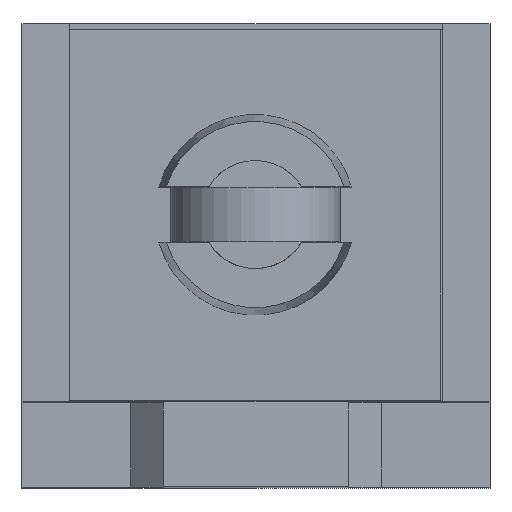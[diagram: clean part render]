
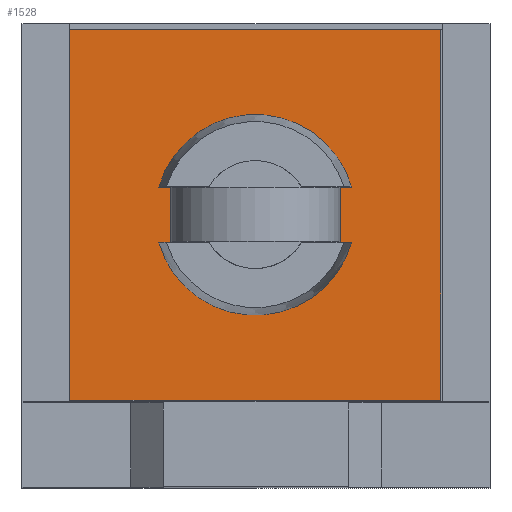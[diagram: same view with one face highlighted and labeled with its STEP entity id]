
A CAD part, top view. The second image highlights one B-rep face of the part: STEP entity #1528.
In plain terms, the highlighted planar face has unit normal (0, 0, 1).
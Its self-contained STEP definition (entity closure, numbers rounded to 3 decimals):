
#1305=CARTESIAN_POINT('',(12.,14.55,67.));
#1306=VERTEX_POINT('',#1305);
#1315=CARTESIAN_POINT('',(12.,-9.45,67.0));
#1316=VERTEX_POINT('',#1315);
#1317=CARTESIAN_POINT('',(12.,-9.45,67.));
#1318=DIRECTION('',(0.0,1.0,0.0));
#1319=VECTOR('',#1318,24.);
#1320=LINE('',#1317,#1319);
#1321=EDGE_CURVE('',#1316,#1306,#1320,.T.);
#1347=CARTESIAN_POINT('',(-12.,14.55,67.));
#1348=VERTEX_POINT('',#1347);
#1363=CARTESIAN_POINT('',(-12.,-9.45,67.0));
#1364=VERTEX_POINT('',#1363);
#1371=CARTESIAN_POINT('',(-12.,14.55,67.));
#1372=DIRECTION('',(0.0,-1.0,0.0));
#1373=VECTOR('',#1372,24.);
#1374=LINE('',#1371,#1373);
#1375=EDGE_CURVE('',#1348,#1364,#1374,.T.);
#1392=CARTESIAN_POINT('',(-12.,-9.45,67.));
#1393=DIRECTION('',(1.0,0.0,0.0));
#1394=VECTOR('',#1393,24.);
#1395=LINE('',#1392,#1394);
#1396=EDGE_CURVE('',#1364,#1316,#1395,.T.);
#1438=CARTESIAN_POINT('',(12.,14.55,67.));
#1439=DIRECTION('',(-1.0,0.0,0.0));
#1440=VECTOR('',#1439,24.);
#1441=LINE('',#1438,#1440);
#1442=EDGE_CURVE('',#1306,#1348,#1441,.T.);
#1447=CARTESIAN_POINT('',(0.,2.55,67.));
#1448=DIRECTION('',(0.0,0.0,1.0));
#1449=DIRECTION('',(1.0,0.0,0.0));
#1450=AXIS2_PLACEMENT_3D('',#1447,#1448,#1449);
#1451=PLANE('',#1450);
#1452=ORIENTED_EDGE('',*,*,#1321,.T.);
#1453=ORIENTED_EDGE('',*,*,#1442,.T.);
#1454=ORIENTED_EDGE('',*,*,#1375,.T.);
#1455=ORIENTED_EDGE('',*,*,#1396,.T.);
#1456=EDGE_LOOP('',(#1452,#1453,#1454,#1455));
#1457=FACE_OUTER_BOUND('',#1456,.T.);
#1458=CARTESIAN_POINT('',(3.002,4.35,67.));
#1459=VERTEX_POINT('',#1458);
#1460=CARTESIAN_POINT('',(3.002,0.75,67.));
#1461=VERTEX_POINT('',#1460);
#1462=CARTESIAN_POINT('',(0.,2.55,67.));
#1463=DIRECTION('',(0.0,0.0,-1.0));
#1464=DIRECTION('',(-1.0,0.0,0.0));
#1465=AXIS2_PLACEMENT_3D('',#1462,#1463,#1464);
#1466=CIRCLE('',#1465,3.5);
#1467=EDGE_CURVE('',#1459,#1461,#1466,.T.);
#1468=ORIENTED_EDGE('',*,*,#1467,.T.);
#1469=CARTESIAN_POINT('',(6.246,0.75,67.));
#1470=VERTEX_POINT('',#1469);
#1471=CARTESIAN_POINT('',(6.246,0.75,67.));
#1472=DIRECTION('',(-1.0,0.0,0.0));
#1473=VECTOR('',#1472,3.244);
#1474=LINE('',#1471,#1473);
#1475=EDGE_CURVE('',#1470,#1461,#1474,.T.);
#1476=ORIENTED_EDGE('',*,*,#1475,.F.);
#1477=CARTESIAN_POINT('',(-6.246,0.75,67.));
#1478=VERTEX_POINT('',#1477);
#1479=CARTESIAN_POINT('',(0.,2.55,67.));
#1480=DIRECTION('',(0.0,0.0,-1.0));
#1481=DIRECTION('',(-1.0,0.0,0.0));
#1482=AXIS2_PLACEMENT_3D('',#1479,#1480,#1481);
#1483=CIRCLE('',#1482,6.5);
#1484=EDGE_CURVE('',#1470,#1478,#1483,.T.);
#1485=ORIENTED_EDGE('',*,*,#1484,.T.);
#1486=CARTESIAN_POINT('',(-3.002,0.75,67.));
#1487=VERTEX_POINT('',#1486);
#1488=CARTESIAN_POINT('',(-3.002,0.75,67.));
#1489=DIRECTION('',(-1.0,0.0,0.0));
#1490=VECTOR('',#1489,3.244);
#1491=LINE('',#1488,#1490);
#1492=EDGE_CURVE('',#1487,#1478,#1491,.T.);
#1493=ORIENTED_EDGE('',*,*,#1492,.F.);
#1494=CARTESIAN_POINT('',(-3.002,4.35,67.));
#1495=VERTEX_POINT('',#1494);
#1496=CARTESIAN_POINT('',(0.,2.55,67.));
#1497=DIRECTION('',(0.0,0.0,-1.0));
#1498=DIRECTION('',(-1.0,0.0,0.0));
#1499=AXIS2_PLACEMENT_3D('',#1496,#1497,#1498);
#1500=CIRCLE('',#1499,3.5);
#1501=EDGE_CURVE('',#1487,#1495,#1500,.T.);
#1502=ORIENTED_EDGE('',*,*,#1501,.T.);
#1503=CARTESIAN_POINT('',(-6.246,4.35,67.));
#1504=VERTEX_POINT('',#1503);
#1505=CARTESIAN_POINT('',(-3.002,4.35,67.));
#1506=DIRECTION('',(-1.0,0.0,0.0));
#1507=VECTOR('',#1506,3.244);
#1508=LINE('',#1505,#1507);
#1509=EDGE_CURVE('',#1495,#1504,#1508,.T.);
#1510=ORIENTED_EDGE('',*,*,#1509,.T.);
#1511=CARTESIAN_POINT('',(6.246,4.35,67.));
#1512=VERTEX_POINT('',#1511);
#1513=CARTESIAN_POINT('',(0.,2.55,67.));
#1514=DIRECTION('',(0.0,0.0,-1.0));
#1515=DIRECTION('',(-1.0,0.0,0.0));
#1516=AXIS2_PLACEMENT_3D('',#1513,#1514,#1515);
#1517=CIRCLE('',#1516,6.5);
#1518=EDGE_CURVE('',#1504,#1512,#1517,.T.);
#1519=ORIENTED_EDGE('',*,*,#1518,.T.);
#1520=CARTESIAN_POINT('',(6.246,4.35,67.));
#1521=DIRECTION('',(-1.0,0.0,0.0));
#1522=VECTOR('',#1521,3.244);
#1523=LINE('',#1520,#1522);
#1524=EDGE_CURVE('',#1512,#1459,#1523,.T.);
#1525=ORIENTED_EDGE('',*,*,#1524,.T.);
#1526=EDGE_LOOP('',(#1468,#1476,#1485,#1493,#1502,#1510,#1519,#1525));
#1527=FACE_BOUND('',#1526,.T.);
#1528=ADVANCED_FACE('',(#1457,#1527),#1451,.T.);
